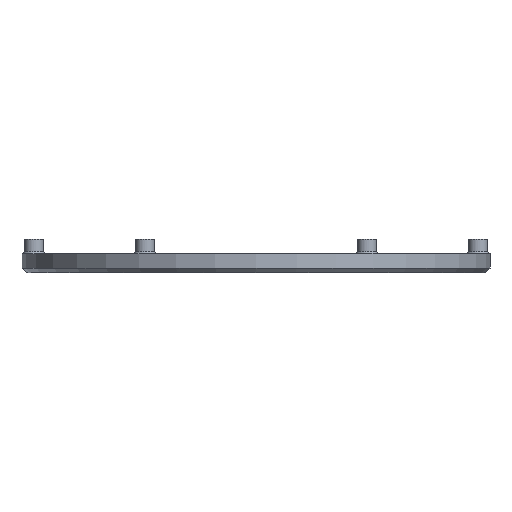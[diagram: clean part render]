
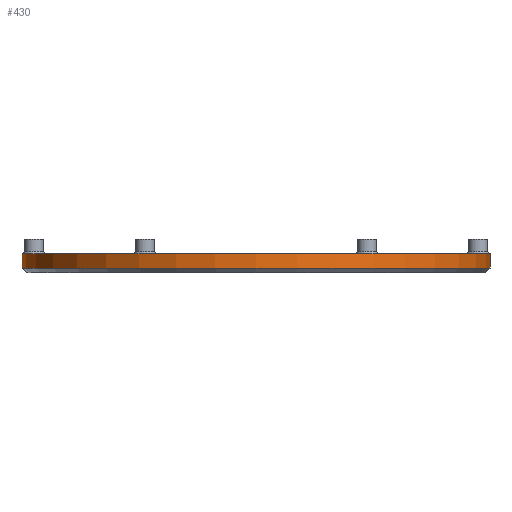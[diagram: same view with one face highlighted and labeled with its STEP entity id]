
A CAD part, front view. The second image highlights one B-rep face of the part: STEP entity #430.
In plain terms, the highlighted cylindrical face has radius 97.5 mm (diameter 195 mm), a partial arc.
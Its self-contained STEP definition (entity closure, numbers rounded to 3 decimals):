
#11 = CARTESIAN_POINT ( 'NONE',  ( 97.5, 0., 8. ) ) ;
#106 = AXIS2_PLACEMENT_3D ( 'NONE', #1389, #3647, #3367 ) ;
#109 = AXIS2_PLACEMENT_3D ( 'NONE', #1480, #1751, #1440 ) ;
#235 = CARTESIAN_POINT ( 'NONE',  ( 0., 0., 8. ) ) ;
#347 = VECTOR ( 'NONE', #3262, 1000. ) ;
#426 = DIRECTION ( 'NONE',  ( 1., 0., 0. ) ) ;
#430 = ADVANCED_FACE ( 'NONE', ( #1910 ), #1286, .T. ) ;
#465 = VERTEX_POINT ( 'NONE', #3054 ) ;
#506 = AXIS2_PLACEMENT_3D ( 'NONE', #235, #2154, #1078 ) ;
#646 = DIRECTION ( 'NONE',  ( 0., 0., 1. ) ) ;
#688 = CARTESIAN_POINT ( 'NONE',  ( 97.5, 0., 2. ) ) ;
#865 = CIRCLE ( 'NONE', #1397, 97.5 ) ;
#932 = CIRCLE ( 'NONE', #109, 97.5 ) ;
#1012 = ORIENTED_EDGE ( 'NONE', *, *, #2718, .F. ) ;
#1065 = EDGE_CURVE ( 'NONE', #465, #1911, #1406, .T. ) ;
#1078 = DIRECTION ( 'NONE',  ( -1., 0., 0. ) ) ;
#1160 = CARTESIAN_POINT ( 'NONE',  ( 48.75, -84.437, 8. ) ) ;
#1236 = DIRECTION ( 'NONE',  ( 1., 0., 0. ) ) ;
#1286 = CYLINDRICAL_SURFACE ( 'NONE', #506, 97.5 ) ;
#1319 = ORIENTED_EDGE ( 'NONE', *, *, #1592, .F. ) ;
#1338 = ORIENTED_EDGE ( 'NONE', *, *, #2914, .T. ) ;
#1389 = CARTESIAN_POINT ( 'NONE',  ( 0., 0., 2. ) ) ;
#1397 = AXIS2_PLACEMENT_3D ( 'NONE', #3476, #646, #426 ) ;
#1406 = CIRCLE ( 'NONE', #106, 97.5 ) ;
#1440 = DIRECTION ( 'NONE',  ( 1., 0., 0. ) ) ;
#1469 = EDGE_CURVE ( 'NONE', #2579, #3032, #932, .T. ) ;
#1480 = CARTESIAN_POINT ( 'NONE',  ( 0., 0., 8. ) ) ;
#1486 = VERTEX_POINT ( 'NONE', #2847 ) ;
#1514 = CARTESIAN_POINT ( 'NONE',  ( 0., 0., 8. ) ) ;
#1592 = EDGE_CURVE ( 'NONE', #3032, #3019, #3590, .T. ) ;
#1689 = ORIENTED_EDGE ( 'NONE', *, *, #1469, .F. ) ;
#1751 = DIRECTION ( 'NONE',  ( 0., 0., 1. ) ) ;
#1878 = AXIS2_PLACEMENT_3D ( 'NONE', #1514, #2639, #1236 ) ;
#1907 = CARTESIAN_POINT ( 'NONE',  ( 97.5, 0., 8. ) ) ;
#1910 = FACE_OUTER_BOUND ( 'NONE', #2609, .T. ) ;
#1911 = VERTEX_POINT ( 'NONE', #688 ) ;
#1966 = ORIENTED_EDGE ( 'NONE', *, *, #2078, .F. ) ;
#2078 = EDGE_CURVE ( 'NONE', #3019, #1911, #3276, .T. ) ;
#2101 = CARTESIAN_POINT ( 'NONE',  ( -48.75, -84.437, 8. ) ) ;
#2154 = DIRECTION ( 'NONE',  ( 0., 0., -1. ) ) ;
#2181 = CARTESIAN_POINT ( 'NONE',  ( -97.5, 0., 8. ) ) ;
#2579 = VERTEX_POINT ( 'NONE', #2101 ) ;
#2609 = EDGE_LOOP ( 'NONE', ( #1966, #1319, #1689, #1012, #1338, #3084 ) ) ;
#2639 = DIRECTION ( 'NONE',  ( 0., 0., 1. ) ) ;
#2718 = EDGE_CURVE ( 'NONE', #1486, #2579, #865, .T. ) ;
#2831 = LINE ( 'NONE', #2181, #3287 ) ;
#2847 = CARTESIAN_POINT ( 'NONE',  ( -97.5, 0., 8. ) ) ;
#2914 = EDGE_CURVE ( 'NONE', #1486, #465, #2831, .T. ) ;
#3019 = VERTEX_POINT ( 'NONE', #11 ) ;
#3032 = VERTEX_POINT ( 'NONE', #1160 ) ;
#3054 = CARTESIAN_POINT ( 'NONE',  ( -97.5, 0., 2. ) ) ;
#3084 = ORIENTED_EDGE ( 'NONE', *, *, #1065, .T. ) ;
#3262 = DIRECTION ( 'NONE',  ( 0., 0., -1. ) ) ;
#3276 = LINE ( 'NONE', #1907, #347 ) ;
#3287 = VECTOR ( 'NONE', #3310, 1000. ) ;
#3310 = DIRECTION ( 'NONE',  ( 0., 0., -1. ) ) ;
#3367 = DIRECTION ( 'NONE',  ( 1., 0., 0. ) ) ;
#3476 = CARTESIAN_POINT ( 'NONE',  ( 0., 0., 8. ) ) ;
#3590 = CIRCLE ( 'NONE', #1878, 97.5 ) ;
#3647 = DIRECTION ( 'NONE',  ( 0., 0., 1. ) ) ;
